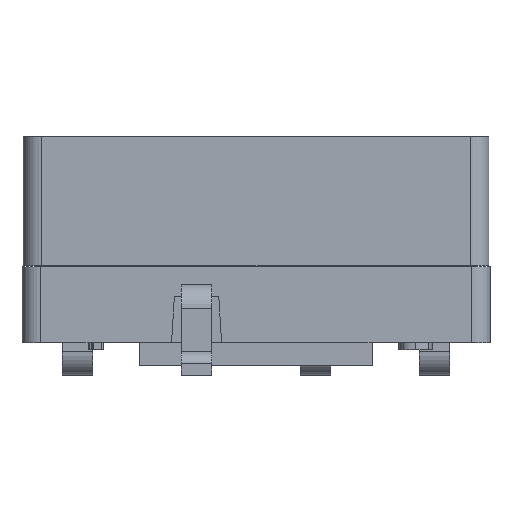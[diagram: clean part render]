
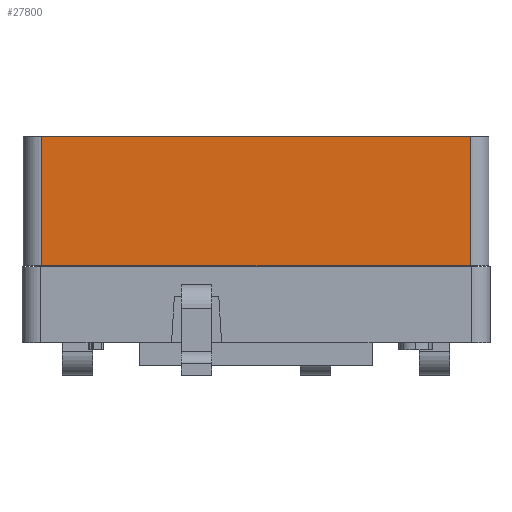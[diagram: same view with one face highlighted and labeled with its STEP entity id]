
A CAD part, front view. The second image highlights one B-rep face of the part: STEP entity #27800.
In plain terms, the highlighted planar face has unit normal (0, -1, 0).
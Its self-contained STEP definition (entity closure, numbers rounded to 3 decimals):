
#1927 = CARTESIAN_POINT ( 'NONE',  ( -4.575, -4.975, 2.76 ) ) ;
#1928 = DIRECTION ( 'NONE',  ( 0., 0., 1. ) ) ;
#1929 = VECTOR ( 'NONE', #1928, 1000. ) ;
#1930 = CARTESIAN_POINT ( 'NONE',  ( -4.575, -4.975, 1.38 ) ) ;
#1931 = LINE ( 'NONE', #1930, #1929 ) ;
#1932 = CARTESIAN_POINT ( 'NONE',  ( -4.575, -4.975, 0. ) ) ;
#1943 = DIRECTION ( 'NONE',  ( -1., 0., 0. ) ) ;
#1944 = VECTOR ( 'NONE', #1943, 1000. ) ;
#1945 = CARTESIAN_POINT ( 'NONE',  ( 0., -4.975, 0. ) ) ;
#1946 = LINE ( 'NONE', #1945, #1944 ) ;
#1951 = CARTESIAN_POINT ( 'NONE',  ( 4.575, -4.975, 0. ) ) ;
#1952 = CARTESIAN_POINT ( 'NONE',  ( 4.575, -4.975, 2.76 ) ) ;
#1953 = DIRECTION ( 'NONE',  ( 0., 0., -1. ) ) ;
#1954 = VECTOR ( 'NONE', #1953, 1000. ) ;
#1955 = CARTESIAN_POINT ( 'NONE',  ( 4.575, -4.975, 1.38 ) ) ;
#1956 = LINE ( 'NONE', #1955, #1954 ) ;
#11399 = CARTESIAN_POINT ( 'NONE',  ( 4.575, -4.975, 0. ) ) ;
#11400 = AXIS2_PLACEMENT_3D ( 'NONE', #11399, #11462, #11461 ) ;
#11401 = PLANE ( 'NONE',  #11400 ) ;
#11402 = FACE_OUTER_BOUND ( 'NONE', #27801, .T. ) ;
#11457 = DIRECTION ( 'NONE',  ( 1., 0., 0. ) ) ;
#11458 = VECTOR ( 'NONE', #11457, 1000. ) ;
#11459 = CARTESIAN_POINT ( 'NONE',  ( -4.975, -4.975, 2.76 ) ) ;
#11460 = LINE ( 'NONE', #11459, #11458 ) ;
#11461 = DIRECTION ( 'NONE',  ( -1., 0., 0. ) ) ;
#11462 = DIRECTION ( 'NONE',  ( 0., 1., 0. ) ) ;
#23723 = EDGE_CURVE ( 'NONE', #23724, #23725, #1956, .T. ) ;
#23724 = VERTEX_POINT ( 'NONE', #1952 ) ;
#23725 = VERTEX_POINT ( 'NONE', #1951 ) ;
#23738 = EDGE_CURVE ( 'NONE', #23725, #23744, #1946, .T. ) ;
#23744 = VERTEX_POINT ( 'NONE', #1932 ) ;
#23746 = EDGE_CURVE ( 'NONE', #23744, #23747, #1931, .T. ) ;
#23747 = VERTEX_POINT ( 'NONE', #1927 ) ;
#27800 = ADVANCED_FACE ( 'NONE', ( #11402 ), #11401, .F. ) ;
#27801 = EDGE_LOOP ( 'NONE', ( #27802, #27803, #27805, #27806 ) ) ;
#27802 = ORIENTED_EDGE ( 'NONE', *, *, #23723, .F. ) ;
#27803 = ORIENTED_EDGE ( 'NONE', *, *, #27804, .F. ) ;
#27804 = EDGE_CURVE ( 'NONE', #23747, #23724, #11460, .T. ) ;
#27805 = ORIENTED_EDGE ( 'NONE', *, *, #23746, .F. ) ;
#27806 = ORIENTED_EDGE ( 'NONE', *, *, #23738, .F. ) ;
